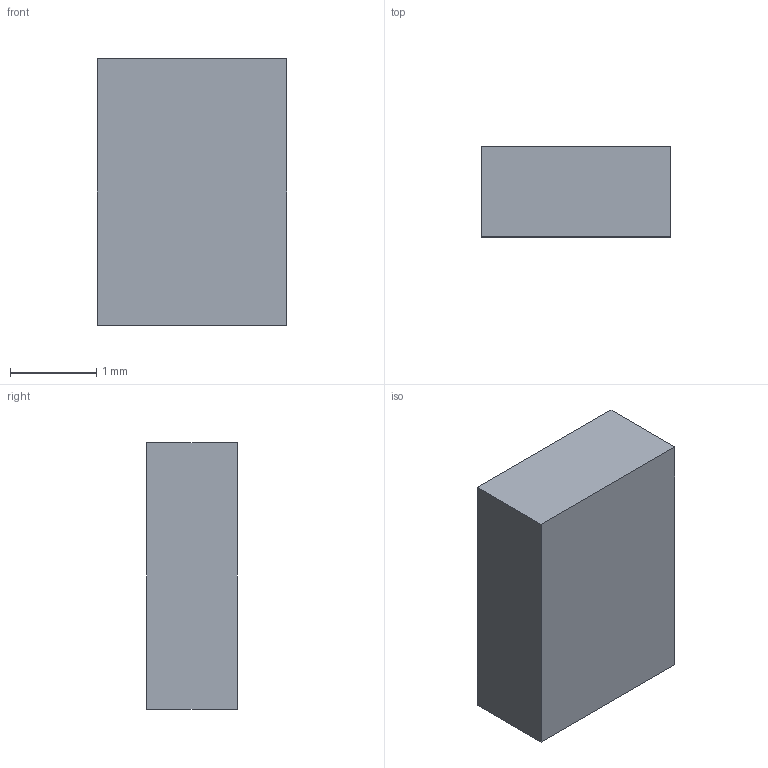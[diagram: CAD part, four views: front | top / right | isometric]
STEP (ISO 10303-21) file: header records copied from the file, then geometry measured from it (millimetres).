
FILE_DESCRIPTION(('Open CASCADE Model'),'2;1');
FILE_NAME('Open CASCADE Shape Model','2026-09-15T14:10:55',('Author'),( 'Open CASCADE'),'Open CASCADE STEP processor 7.7','Open CASCADE 7.7' ,'Unknown');
FILE_SCHEMA(('AUTOMOTIVE_DESIGN { 1 0 10303 214 1 1 1 1 }'));
Length unit declared in the file: millimetre
Products named in the file (1): Open CASCADE STEP translator 7.7 2
Bounding box: 2.2 x 1.05 x 3.1 mm (x, y, z)
Volume: 7.2 mm3; surface area: 24.8 mm2
Topology: 1 solids, 1 shells, 6 faces, 12 edges, 8 vertices
Faces by surface type: plane 6
Entity records: 322 total; most frequent: CARTESIAN_POINT 51, DIRECTION 50, LINE 36, VECTOR 36, ORIENTED_EDGE 24, PCURVE 24, DEFINITIONAL_REPRESENTATION 24, EDGE_CURVE 12
